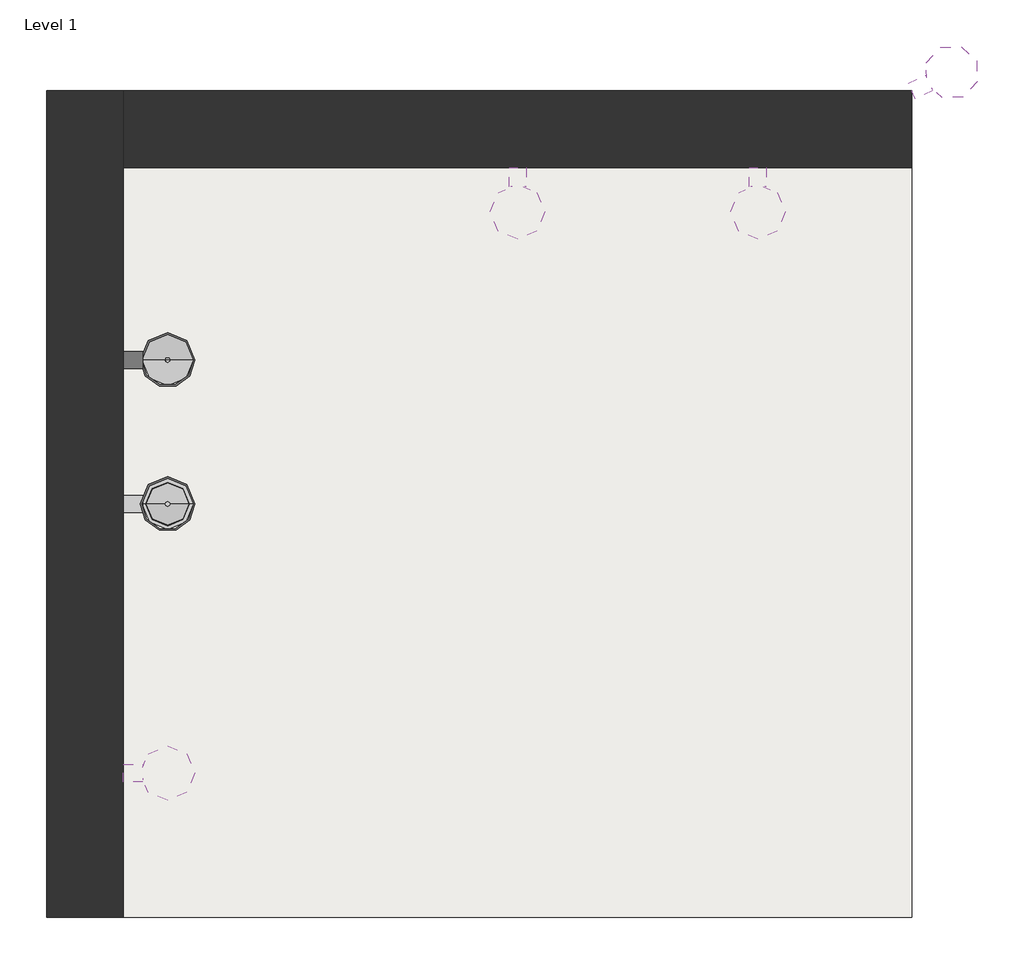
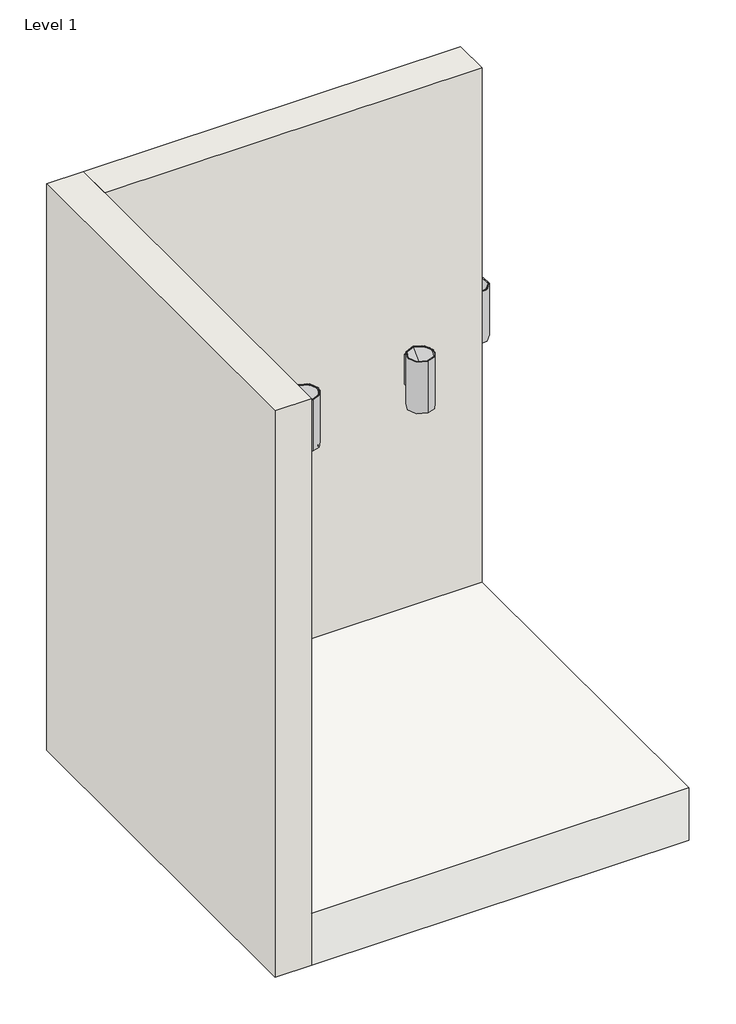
# One storey: 6 light fixtures, 2 walls, 1 slab.
"""IFC4 building model written with IfcOpenShell, lengths in millimetres."""

from ifc_helpers import new_model, si_unit, frame, origin, place, context, project, spatial, polyline, outline, extrude, faceted_brep, transform, mapped, element, save
from components import wd2360_6d3cfd78, wd2360_wall_based_family_640fc546

model = new_model("IFC4")

# Units and contexts
model_context = context("Model", 3, world=origin())
ifc_project = project(units=[si_unit("LENGTHUNIT", "METRE", prefix="MILLI")], contexts=[model_context])

# Site, building, storey
site = spatial("IfcSite", under=ifc_project)
building = spatial("IfcBuilding", under=site)
storey = spatial("IfcBuildingStorey", under=building, Name="Level 1", Elevation=0.0)

# Light fixtures
placement = place(None, origin())
wd2360_shape = wd2360_6d3cfd78(model_context)
element("IfcLightFixture", 1, ObjectType="WD2360 : WD2360 6\" ROUND 2 DIRECTION WALL MOUNT (IP65) 2 x 1000lm_WD2360B-B02-T40", at=placement, inside=storey, context=model_context, shape_type="MappedRepresentation", body=[
    mapped(wd2360_shape, transform((3884.6676417, 3718.3896904, 1243.3473638), x_axis=(1.0, 0.0, 0.0), y_axis=(0.0, 1.0, 0.0), z_axis=(0.0, 0.0, 1.0))),
])
element("IfcLightFixture", 2, ObjectType="WD2360 : WD2360 6\" ROUND 2 DIRECTION WALL MOUNT (IP65) 2 x 1000lm_WD2360B-B02-T40", at=placement, inside=storey, context=model_context, shape_type="MappedRepresentation", body=[
    mapped(wd2360_shape, transform((3249.6676417, 3718.3896904, 1243.3473638), x_axis=(1.0, 0.0, 0.0), y_axis=(0.0, 1.0, 0.0), z_axis=(0.0, 0.0, 1.0))),
])
element("IfcLightFixture", 3, ObjectType="WD2360 : WD2360 6\" ROUND 2 DIRECTION WALL MOUNT (IP65) 2 x 1000lm_WD2360B-B02-T40", at=placement, inside=storey, context=model_context, shape_type="MappedRepresentation", body=[
    mapped(wd2360_shape, transform((4312.2305736, 3954.8088394, 1243.3473638), x_axis=(-0.4226182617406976, 0.9063077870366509, 0.0), y_axis=(-0.9063077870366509, -0.4226182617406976, 0.0), z_axis=(0.0, 0.0, 1.0))),
])
wd2360_wall_based_family_shape = wd2360_wall_based_family_640fc546(model_context)
element("IfcLightFixture", 4, ObjectType="WD2360_Wall-based family : WD2360 6\" ROUND 2 DIRECTION WALL MOUNT (IP65) 2 x 1000lm_WD2360B-B02-T40", at=placement, inside=storey, context=model_context, shape_type="MappedRepresentation", body=[
    mapped(wd2360_wall_based_family_shape, transform((2106.6676417, 2266.5404022, 1270.0), x_axis=(0.0, -1.0, 0.0), y_axis=(1.0, 0.0, 0.0), z_axis=(0.0, 0.0, 1.0))),
])
element("IfcLightFixture", 5, ObjectType="WD2360_Wall-based family : WD2360 6\" ROUND 2 DIRECTION WALL MOUNT (IP65) 2 x 1000lm_WD2360B-B02-T40", at=placement, inside=storey, context=model_context, shape_type="MappedRepresentation", body=[
    mapped(wd2360_wall_based_family_shape, transform((2106.6676417, 2977.7404022, 914.4), x_axis=(0.0, -1.0, 0.0), y_axis=(1.0, 0.0, 0.0), z_axis=(0.0, 0.0, 1.0))),
])
element("IfcLightFixture", 6, ObjectType="WD2360_Wall-based family : WD2360 6\" ROUND 2 DIRECTION WALL MOUNT (IP65) 2 x 1000lm_WD2360B-B02-T40", at=placement, inside=storey, context=model_context, shape_type="MappedRepresentation", body=[
    mapped(wd2360_wall_based_family_shape, transform((2106.6676417, 3358.7404022, 1117.6), x_axis=(0.0, -1.0, 0.0), y_axis=(1.0, 0.0, 0.0), z_axis=(0.0, 0.0, 1.0))),
])

# Slab
element("IfcSlab", 7, ObjectType="Floor 1", at=placement, inside=storey, context=model_context, shape_type="SweptSolid", body=[
    extrude(outline(polyline([(4291.0676417, 3741.7404022), (4291.0676417, 1760.5404022), (2208.2676417, 1760.5404022), (2208.2676417, 3741.7404022), (4291.0676417, 3741.7404022)])), frame((0.0, 0.0, -304.8), z_axis=(0.0, 0.0, 1.0), x_axis=(1.0, 0.0, 0.0)), (0.0, 0.0, 1.0), 304.8),
])

# Walls
element("IfcWall", 8, ObjectType="Wall 1", at=placement, inside=storey, context=model_context, shape_type="Brep", body=[
    faceted_brep([(2005.0676417, 3944.9404022, -304.8), (2005.0676417, 1760.5404022, -304.8), (2005.0676417, 1760.5404022, 3000.0), (2005.0676417, 3944.9404022, 3000.0), (2208.2676417, 3944.9404022, -304.8), (2208.2676417, 3944.9404022, 3000.0), (2208.2676417, 3741.7404022, 3000.0), (2208.2676417, 1760.5404022, 3000.0), (2208.2676417, 1760.5404022, -304.8), (2208.2676417, 3741.7404022, -304.8)], [[[0, 1, 2, 3]], [[4, 5, 6, 7, 8, 9]], [[1, 0, 4, 9, 8]], [[2, 1, 8, 7]], [[3, 2, 7, 6, 5]], [[0, 3, 5, 4]]]),
])
element("IfcWall", 9, ObjectType="Wall 1", at=placement, inside=storey, context=model_context, shape_type="SweptSolid", body=[
    extrude(outline(polyline([(4291.0676417, 3741.7404022), (2208.2676417, 3741.7404022), (2208.2676417, 3944.9404022), (4291.0676417, 3944.9404022), (4291.0676417, 3741.7404022)])), frame((0.0, 0.0, -304.8), z_axis=(0.0, 0.0, 1.0), x_axis=(1.0, 0.0, 0.0)), (0.0, 0.0, 1.0), 3304.8),
])

save(model, "model.ifc")
